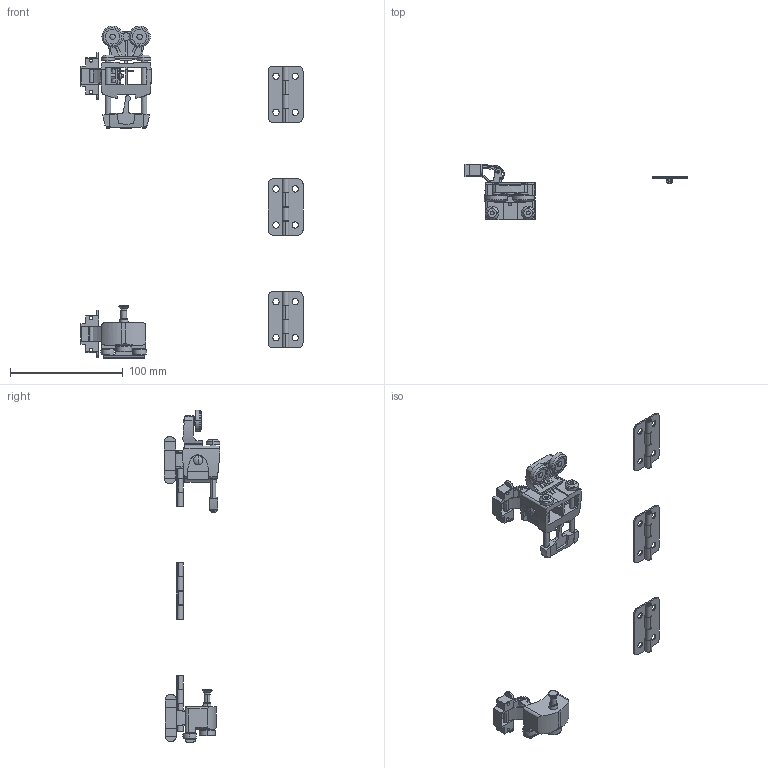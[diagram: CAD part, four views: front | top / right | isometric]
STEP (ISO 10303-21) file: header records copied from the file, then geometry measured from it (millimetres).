
FILE_DESCRIPTION( ( '' ), '1' );
FILE_NAME( 'D:/temp/hettich_stp/hettich/4_folding_sliding/4.4_folding_door/10kg_wl_780_wl_780_alu/9079792_wl780_alu_li/9079792.stp', '2013-02-26T10:20:38', ( '' ), ( '' ), ' ', ' ', ' ' );
FILE_SCHEMA( ( 'automotive_design' ) );
Length unit declared in the file: millimetre
Products named in the file (5): 1; 2; 3; 4; 5
Bounding box: 197.1 x 49.17 x 294.6 mm (x, y, z)
Volume: 67151.5 mm3; surface area: 55484.1 mm2
Topology: 5 solids, 5 shells, 994 faces, 2933 edges, 1935 vertices
Faces by surface type: plane 551, cylinder 373, torus 46, cone 22, sphere 2
Entity records: 67306 total; most frequent: CARTESIAN_POINT 7468, STYLED_ITEM 5865, PRESENTATION_STYLE_ASSIGNMENT 5865, COLOUR_RGB 5865, ORIENTED_EDGE 5862, DIRECTION 5797, EDGE_CURVE 2931, CURVE_STYLE 2931
